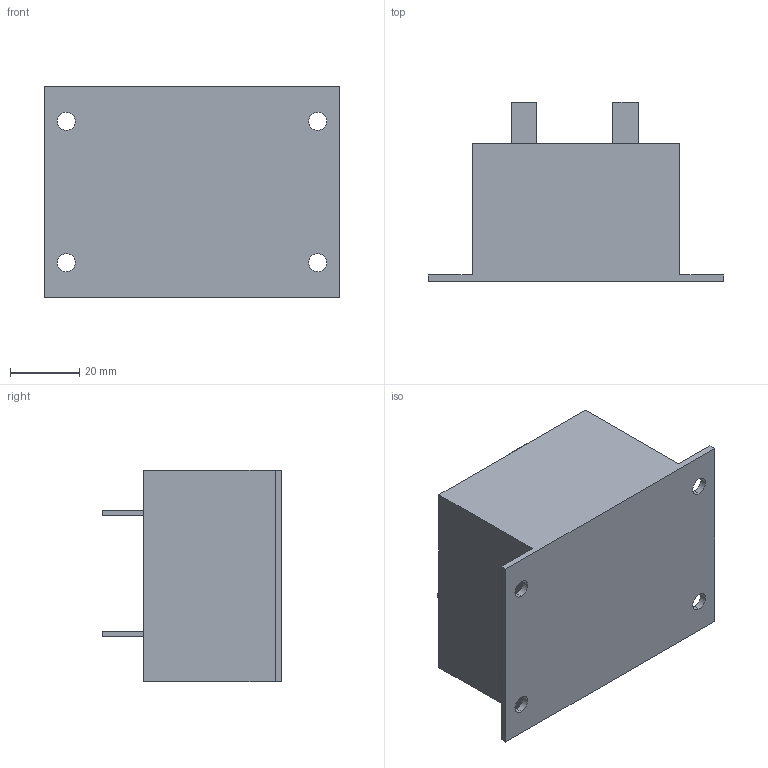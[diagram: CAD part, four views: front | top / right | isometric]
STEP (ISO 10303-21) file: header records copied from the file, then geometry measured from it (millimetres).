
FILE_DESCRIPTION (( 'STEP AP214' ), '1' );
FILE_NAME ('SEK55246-800M-85AH.STEP', '2020-12-26T17:26:13', ( '' ), ( '' ), 'SwSTEP 2.0', 'SolidWorks 2015', '' );
FILE_SCHEMA (( 'AUTOMOTIVE_DESIGN' ));
Length unit declared in the file: millimetre
Products named in the file (1): SEK55246-800M-85AH
Bounding box: 85.4 x 51.88 x 61.21 mm (x, y, z)
Volume: 149962.2 mm3; surface area: 20626.4 mm2
Topology: 1 solids, 1 shells, 28 faces, 72 edges, 48 vertices
Faces by surface type: plane 20, cylinder 8
Entity records: 902 total; most frequent: CARTESIAN_POINT 149, DIRECTION 146, ORIENTED_EDGE 144, EDGE_CURVE 72, LINE 56, VECTOR 56, VERTEX_POINT 48, AXIS2_PLACEMENT_3D 45
